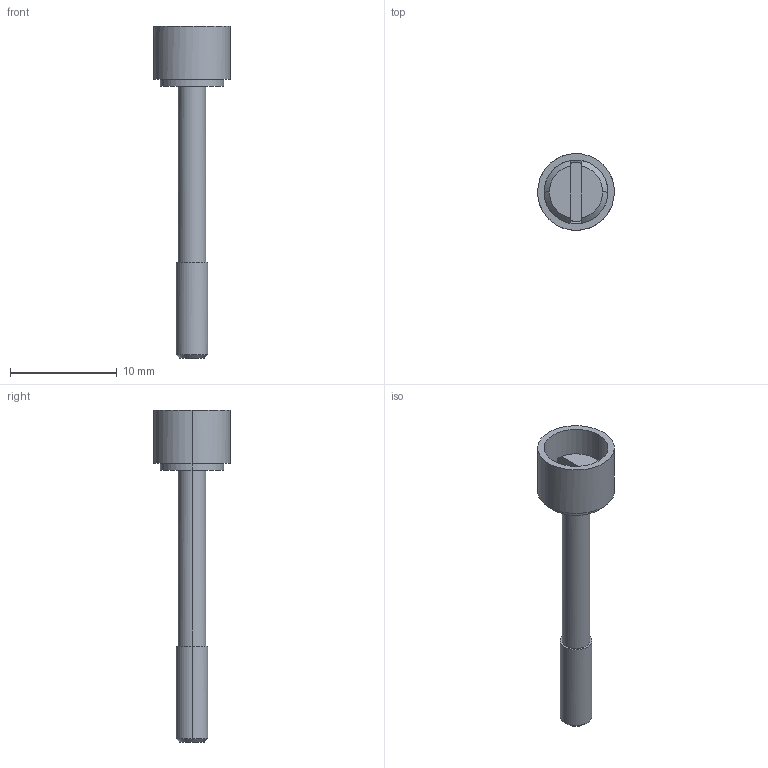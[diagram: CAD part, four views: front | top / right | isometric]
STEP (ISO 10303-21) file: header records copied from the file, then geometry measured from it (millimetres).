
FILE_DESCRIPTION(('Open CASCADE Model'),'2;1');
FILE_NAME('Open CASCADE Shape Model','2024-07-16T16:59:42',('Author'),( 'Open CASCADE'),'Open CASCADE STEP processor 6.5','Open CASCADE 6.5' ,'Unknown');
FILE_SCHEMA(('AUTOMOTIVE_DESIGN { 1 0 10303 214 1 1 1 1 }'));
Length unit declared in the file: millimetre
Products named in the file (46): CADSOFTTOOLS 1; CADSOFTTOOLS 1.1; CADSOFTTOOLS 1.2; CADSOFTTOOLS 1.3; CADSOFTTOOLS 1.4; CADSOFTTOOLS 1.5; CADSOFTTOOLS 1.6; CADSOFTTOOLS 1.7; CADSOFTTOOLS 1.8; CADSOFTTOOLS 1.9; CADSOFTTOOLS 1.10; CADSOFTTOOLS 1.11; CADSOFTTOOLS 1.12; CADSOFTTOOLS 1.13; CADSOFTTOOLS 1.14; CADSOFTTOOLS 1.15; CADSOFTTOOLS 1.16; CADSOFTTOOLS 1.17; CADSOFTTOOLS 1.18; CADSOFTTOOLS 1.19; CADSOFTTOOLS 1.20; CADSOFTTOOLS 1.21; CADSOFTTOOLS 1.22; CADSOFTTOOLS 1.23; CADSOFTTOOLS 1.24; CADSOFTTOOLS 1.25; CADSOFTTOOLS 1.26; CADSOFTTOOLS 1.27; CADSOFTTOOLS 1.28; CADSOFTTOOLS 1.29; CADSOFTTOOLS 1.30; CADSOFTTOOLS 1.31; CADSOFTTOOLS 1.32; CADSOFTTOOLS 1.33; CADSOFTTOOLS 1.34; CADSOFTTOOLS 1.35; CADSOFTTOOLS 1.36; CADSOFTTOOLS 1.37; CADSOFTTOOLS 1.38; CADSOFTTOOLS 1.39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
Assembly tree (45 placements, depth 2):
  CADSOFTTOOLS 1
    CADSOFTTOOLS 1.1
    CADSOFTTOOLS 1.2
    CADSOFTTOOLS 1.3
    CADSOFTTOOLS 1.4
    CADSOFTTOOLS 1.5
    CADSOFTTOOLS 1.6
    CADSOFTTOOLS 1.7
    CADSOFTTOOLS 1.8
    CADSOFTTOOLS 1.9
    CADSOFTTOOLS 1.10
    CADSOFTTOOLS 1.11
    CADSOFTTOOLS 1.12
    CADSOFTTOOLS 1.13
    CADSOFTTOOLS 1.14
    CADSOFTTOOLS 1.15
    CADSOFTTOOLS 1.16
    CADSOFTTOOLS 1.17
    CADSOFTTOOLS 1.18
    CADSOFTTOOLS 1.19
    CADSOFTTOOLS 1.20
    CADSOFTTOOLS 1.21
    CADSOFTTOOLS 1.22
    CADSOFTTOOLS 1.23
    CADSOFTTOOLS 1.24
    CADSOFTTOOLS 1.25
    CADSOFTTOOLS 1.26
    CADSOFTTOOLS 1.27
    CADSOFTTOOLS 1.28
    CADSOFTTOOLS 1.29
    CADSOFTTOOLS 1.30
    CADSOFTTOOLS 1.31
    CADSOFTTOOLS 1.32
    CADSOFTTOOLS 1.33
    CADSOFTTOOLS 1.34
    CADSOFTTOOLS 1.35
    CADSOFTTOOLS 1.36
    CADSOFTTOOLS 1.37
    CADSOFTTOOLS 1.38
    CADSOFTTOOLS 1.39
    CADSOFTTOOLS 1.40
    CADSOFTTOOLS 1.41
    CADSOFTTOOLS 1.42
    CADSOFTTOOLS 1.43
    CADSOFTTOOLS 1.44
    CADSOFTTOOLS 1.45
Bounding box: 7.2 x 7.2 x 31.15 mm (x, y, z)
Surface area: 590.2 mm2 (no closed solid volume)
Topology: 0 solids, 45 shells, 45 faces, 200 edges, 200 vertices
Faces by surface type: cylinder 20, plane 15, cone 6, torus 4
Entity records: 6119 total; most frequent: CARTESIAN_POINT 2849, DIRECTION 460, ORIENTED_EDGE 200, EDGE_CURVE 200, VERTEX_POINT 200, SURFACE_CURVE 200, PCURVE 200, DEFINITIONAL_REPRESENTATION 200
